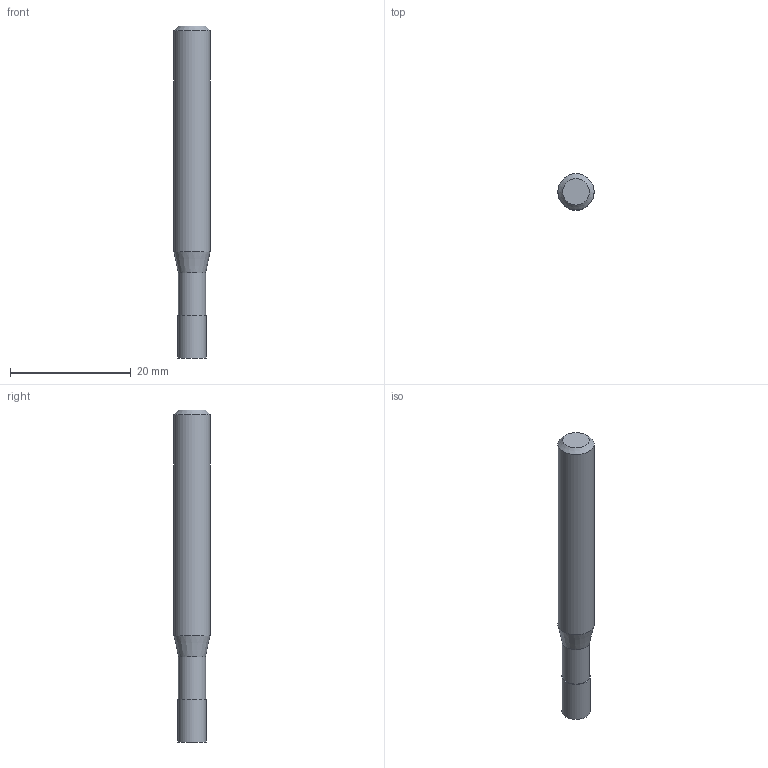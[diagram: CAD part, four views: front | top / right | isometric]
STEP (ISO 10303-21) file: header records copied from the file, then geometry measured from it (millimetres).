
FILE_DESCRIPTION((''),'2;1');
FILE_NAME('C:\Users\nsx150\AppData\Local\Temp\Mastercam 2021\EUJSUNXURU\TEMP.step','2021-04-22T10:28:27',(''),(''),'STEP Write','Mastercam 2021 ... CNC Software, Inc.','');
FILE_SCHEMA(('AUTOMOTIVE_DESIGN'));
Length unit declared in the file: millimetre
Products named in the file (1): None
Bounding box: 6 x 6 x 55 mm (x, y, z)
Volume: 1362.6 mm3; surface area: 1036.9 mm2
Topology: 2 solids, 2 shells, 9 faces, 12 edges, 7 vertices
Faces by surface type: plane 4, cylinder 3, cone 2
Full cylindrical faces by diameter (mm): 4.5 x1, 4.7 x1, 6 x1
Entity records: 211 total; most frequent: DIRECTION 36, CARTESIAN_POINT 25, AXIS2_PLACEMENT_3D 18, ORIENTED_EDGE 14, EDGE_LOOP 14, STYLED_ITEM 12, ADVANCED_FACE 9, FACE_BOUND 8
